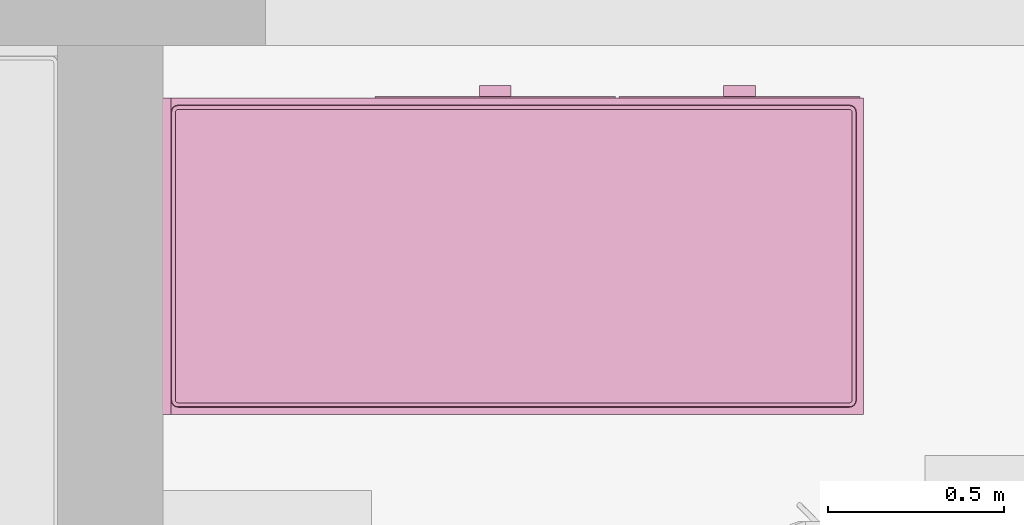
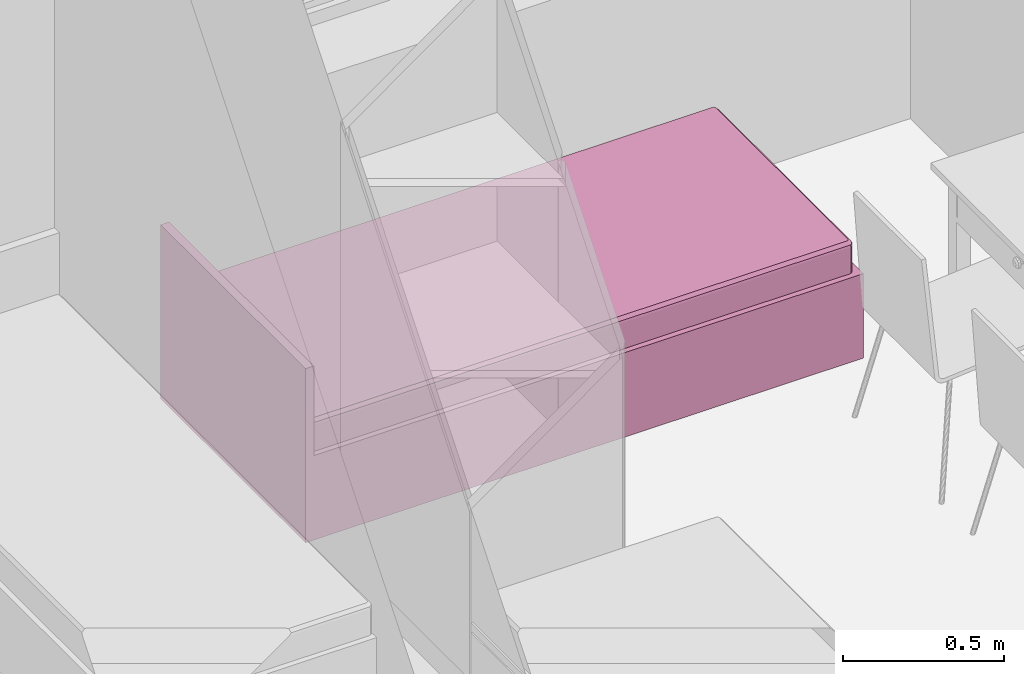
# One storey, part 73 of 165: 1 furnishing.
"""IFC2X3 building model written with IfcOpenShell, lengths in millimetres."""

from ifc_helpers import new_model, entity, si_unit, converted_unit, money_unit, direction, frame, origin_with_axes, place, context, subcontext, project, spatial, faceted_brep, source, transform, mapped, material, material_list, type_object, element, save


model = new_model("IFC2X3")

# Units and contexts
model_context = context("Model", 3, precision=1e-05, world=origin_with_axes(), true_north=direction((0.0, 1.0)))
body_context = subcontext(model_context, "Body", "Model", "MODEL_VIEW")
ifc_project = project(units=[si_unit("LENGTHUNIT", "METRE", prefix="MILLI"), si_unit("AREAUNIT", "SQUARE_METRE"), si_unit("VOLUMEUNIT", "CUBIC_METRE"), converted_unit("PLANEANGLEUNIT", "DEGREE", entity("IfcPlaneAngleMeasure", 0.0174532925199), si_unit("PLANEANGLEUNIT", "RADIAN"), dimensions=[0, 0, 0, 0, 0, 0, 0]), si_unit("SOLIDANGLEUNIT", "STERADIAN"), money_unit("USD"), converted_unit("TIMEUNIT", "Year", entity("IfcTimeMeasure", 31556926.0), si_unit("TIMEUNIT", "SECOND"), dimensions=[0, 0, 0, 0, 0, 0, 0]), si_unit("MASSUNIT", "GRAM"), si_unit("THERMODYNAMICTEMPERATUREUNIT", "DEGREE_CELSIUS"), si_unit("LUMINOUSINTENSITYUNIT", "LUMEN")], contexts=[model_context])

# Site, building, storey
site_placement = place(None, origin_with_axes())
site = spatial("IfcSite", under=ifc_project, at=site_placement, Name="Site", CompositionType="ELEMENT")
building_placement = place(site_placement, origin_with_axes())
building = spatial("IfcBuilding", under=site, at=building_placement, Name="Building", CompositionType="ELEMENT")
storey_placement = place(building_placement, frame((0.0, 0.0, 6300.0), z_axis=(0.0, 0.0, 1.0), x_axis=(1.0, 0.0, 0.0)))
storey = spatial("IfcBuildingStorey", under=building, at=storey_placement, Name="4KORRUS", CompositionType="ELEMENT", Elevation=6300.0)

# Furnishing
ifc_material = material(Name="Background")
ifc_material_list = material_list([ifc_material])
furnishing_element_type = type_object("IfcFurnishingElementType", Name="Bed 19")
shared_shape = source(origin_with_axes(), body_context, "Body", "Brep", [
    faceted_brep([(900.0, 1970.0, 0.0), (0.0, 1970.0, 0.0), (0.0, 2000.0, 0.0), (900.0, 2000.0, 0.0), (900.0, 1970.0, 660.0), (0.0, 1970.0, 660.0), (0.0, 2000.0, 660.0), (900.0, 2000.0, 660.0)], [[[0, 1, 2, 3]], [[1, 0, 4, 5]], [[2, 1, 5, 6]], [[3, 2, 6, 7]], [[0, 3, 7, 4]], [[5, 4, 7, 6]]]),
    faceted_brep([(900.0, 0.0, 0.0), (0.0, 0.0, 0.0), (0.0, 1970.0, 0.0), (900.0, 1970.0, 0.0), (900.0, 0.0, 320.0), (0.0, 0.0, 320.0), (0.0, 1970.0, 320.0), (900.0, 1970.0, 320.0)], [[[0, 1, 2, 3]], [[1, 0, 4, 5]], [[2, 1, 5, 6]], [[3, 2, 6, 7]], [[0, 3, 7, 4]], [[5, 4, 7, 6]]]),
    faceted_brep([(905.0, 10.0, 30.0), (900.0, 10.0, 30.0), (900.0, 695.0, 30.0), (905.0, 695.0, 30.0), (905.0, 10.0, 290.0), (900.0, 10.0, 290.0), (900.0, 695.0, 290.0), (905.0, 695.0, 290.0)], [[[0, 1, 2, 3]], [[1, 0, 4, 5]], [[2, 1, 5, 6]], [[3, 2, 6, 7]], [[0, 3, 7, 4]], [[5, 4, 7, 6]]]),
    faceted_brep([(935.0, 307.5, 150.0), (905.0, 307.5, 150.0), (905.0, 397.5, 150.0), (935.0, 397.5, 150.0), (935.0, 307.5, 170.0), (905.0, 307.5, 170.0), (905.0, 397.5, 170.0), (935.0, 397.5, 170.0)], [[[0, 1, 2, 3]], [[1, 0, 4, 5]], [[2, 1, 5, 6]], [[3, 2, 6, 7]], [[0, 3, 7, 4]], [[5, 4, 7, 6]]]),
    faceted_brep([(905.0, 705.0, 30.0), (900.0, 705.0, 30.0), (900.0, 1390.0, 30.0), (905.0, 1390.0, 30.0), (905.0, 705.0, 290.0), (900.0, 705.0, 290.0), (900.0, 1390.0, 290.0), (905.0, 1390.0, 290.0)], [[[0, 1, 2, 3]], [[1, 0, 4, 5]], [[2, 1, 5, 6]], [[3, 2, 6, 7]], [[0, 3, 7, 4]], [[5, 4, 7, 6]]]),
    faceted_brep([(935.0, 1002.5, 150.0), (905.0, 1002.5, 150.0), (905.0, 1092.5, 150.0), (935.0, 1092.5, 150.0), (935.0, 1002.5, 170.0), (905.0, 1002.5, 170.0), (905.0, 1092.5, 170.0), (935.0, 1092.5, 170.0)], [[[0, 1, 2, 3]], [[1, 0, 4, 5]], [[2, 1, 5, 6]], [[3, 2, 6, 7]], [[0, 3, 7, 4]], [[5, 4, 7, 6]]]),
    faceted_brep([(20.0, 40.0, 350.0), (20.0, 1950.0, 350.0), (21.522, 1957.654, 350.0), (25.858, 1964.142, 350.0), (32.346, 1968.478, 350.0), (40.0, 1970.0, 350.0), (860.0, 1970.0, 350.0), (867.654, 1968.478, 350.0), (874.142, 1964.142, 350.0), (878.478, 1957.654, 350.0), (880.0, 1950.0, 350.0), (880.0, 40.0, 350.0), (878.478, 32.346, 350.0), (874.142, 25.858, 350.0), (867.654, 21.522, 350.0), (860.0, 20.0, 350.0), (40.0, 20.0, 350.0), (32.346, 21.522, 350.0), (25.858, 25.858, 350.0), (21.522, 32.346, 350.0), (20.0, 40.0, 420.0), (20.0, 1950.0, 420.0), (21.522, 1957.654, 420.0), (25.858, 1964.142, 420.0), (32.346, 1968.478, 420.0), (40.0, 1970.0, 420.0), (860.0, 1970.0, 420.0), (867.654, 1968.478, 420.0), (874.142, 1964.142, 420.0), (878.478, 1957.654, 420.0), (880.0, 1950.0, 420.0), (880.0, 40.0, 420.0), (878.478, 32.346, 420.0), (874.142, 25.858, 420.0), (867.654, 21.522, 420.0), (860.0, 20.0, 420.0), (40.0, 20.0, 420.0), (32.346, 21.522, 420.0), (25.858, 25.858, 420.0), (21.522, 32.346, 420.0), (21.522, 40.15, 427.654), (21.522, 1949.85, 427.654), (22.956, 1957.06, 427.654), (26.955, 1963.045, 427.654), (32.94, 1967.044, 427.654), (40.15, 1968.478, 427.654), (859.85, 1968.478, 427.654), (867.06, 1967.044, 427.654), (873.045, 1963.045, 427.654), (877.044, 1957.06, 427.654), (878.478, 1949.85, 427.654), (878.478, 40.15, 427.654), (877.044, 32.94, 427.654), (873.045, 26.955, 427.654), (867.06, 22.956, 427.654), (859.85, 21.522, 427.654), (40.15, 21.522, 427.654), (32.94, 22.956, 427.654), (26.955, 26.955, 427.654), (22.956, 32.94, 427.654), (32.346, 41.216, 438.478), (32.346, 1948.784, 438.478), (33.152, 1952.836, 438.478), (34.759, 1955.241, 438.478), (37.164, 1956.848, 438.478), (41.216, 1957.654, 438.478), (858.784, 1957.654, 438.478), (862.836, 1956.848, 438.478), (865.241, 1955.241, 438.478), (866.848, 1952.836, 438.478), (867.654, 1948.784, 438.478), (867.654, 41.216, 438.478), (866.848, 37.164, 438.478), (865.241, 34.759, 438.478), (862.836, 33.152, 438.478), (858.784, 32.346, 438.478), (41.216, 32.346, 438.478), (37.164, 33.152, 438.478), (34.759, 34.759, 438.478), (33.152, 37.164, 438.478), (40.0, 41.97, 440.0), (40.0, 1948.03, 440.0), (40.327, 1949.673, 440.0), (40.0, 1950.0, 439.924), (41.97, 1950.0, 440.0), (858.03, 1950.0, 440.0), (859.673, 1949.673, 440.0), (860.0, 1950.0, 439.924), (860.0, 1948.03, 440.0), (860.0, 41.97, 440.0), (859.673, 40.327, 440.0), (860.0, 40.0, 439.924), (858.03, 40.0, 440.0), (41.97, 40.0, 440.0), (40.327, 40.327, 440.0), (40.0, 40.0, 439.924)], [[[0, 1, 2, 3, 4, 5, 6, 7, 8, 9, 10, 11, 12, 13, 14, 15, 16, 17, 18, 19]], [[1, 0, 20, 21]], [[2, 1, 21, 22]], [[3, 2, 22, 23]], [[4, 3, 23, 24]], [[5, 4, 24, 25]], [[6, 5, 25, 26]], [[7, 6, 26, 27]], [[8, 7, 27, 28]], [[9, 8, 28, 29]], [[10, 9, 29, 30]], [[11, 10, 30, 31]], [[12, 11, 31, 32]], [[13, 12, 32, 33]], [[14, 13, 33, 34]], [[15, 14, 34, 35]], [[16, 15, 35, 36]], [[17, 16, 36, 37]], [[18, 17, 37, 38]], [[19, 18, 38, 39]], [[0, 19, 39, 20]], [[21, 20, 40, 41]], [[22, 21, 41, 42]], [[23, 22, 42, 43]], [[24, 23, 43, 44]], [[25, 24, 44, 45]], [[26, 25, 45, 46]], [[27, 26, 46, 47]], [[28, 27, 47, 48]], [[29, 28, 48, 49]], [[30, 29, 49, 50]], [[31, 30, 50, 51]], [[32, 31, 51, 52]], [[33, 32, 52, 53]], [[34, 33, 53, 54]], [[35, 34, 54, 55]], [[36, 35, 55, 56]], [[37, 36, 56, 57]], [[38, 37, 57, 58]], [[39, 38, 58, 59]], [[20, 39, 59, 40]], [[41, 40, 60, 61]], [[42, 41, 61, 62]], [[43, 42, 62, 63]], [[44, 43, 63, 64]], [[45, 44, 64, 65]], [[46, 45, 65, 66]], [[47, 46, 66, 67]], [[48, 47, 67, 68]], [[49, 48, 68, 69]], [[50, 49, 69, 70]], [[51, 50, 70, 71]], [[52, 51, 71, 72]], [[53, 52, 72, 73]], [[54, 53, 73, 74]], [[55, 54, 74, 75]], [[56, 55, 75, 76]], [[57, 56, 76, 77]], [[58, 57, 77, 78]], [[59, 58, 78, 79]], [[40, 59, 79, 60]], [[61, 60, 80, 81]], [[62, 61, 81, 82, 83]], [[63, 62, 83]], [[64, 63, 83]], [[65, 64, 83, 82, 84]], [[66, 65, 84, 85]], [[67, 66, 85, 86, 87]], [[68, 67, 87]], [[69, 68, 87]], [[70, 69, 87, 86, 88]], [[71, 70, 88, 89]], [[72, 71, 89, 90, 91]], [[73, 72, 91]], [[74, 73, 91]], [[75, 74, 91, 90, 92]], [[76, 75, 92, 93]], [[77, 76, 93, 94, 95]], [[78, 77, 95]], [[79, 78, 95]], [[60, 79, 95, 94, 80]], [[81, 80, 94, 93, 92, 90, 89, 88, 86, 85, 84, 82]]]),
    faceted_brep([(20.0, 40.0, 350.0), (21.522, 32.346, 350.0), (25.858, 25.858, 350.0), (32.346, 21.522, 350.0), (40.0, 20.0, 350.0), (860.0, 20.0, 350.0), (867.654, 21.522, 350.0), (874.142, 25.858, 350.0), (878.478, 32.346, 350.0), (880.0, 40.0, 350.0), (880.0, 1950.0, 350.0), (878.478, 1957.654, 350.0), (874.142, 1964.142, 350.0), (867.654, 1968.478, 350.0), (860.0, 1970.0, 350.0), (40.0, 1970.0, 350.0), (32.346, 1968.478, 350.0), (25.858, 1964.142, 350.0), (21.522, 1957.654, 350.0), (20.0, 1950.0, 350.0), (20.0, 40.0, 320.0), (21.522, 32.346, 320.0), (25.858, 25.858, 320.0), (32.346, 21.522, 320.0), (40.0, 20.0, 320.0), (860.0, 20.0, 320.0), (867.654, 21.522, 320.0), (874.142, 25.858, 320.0), (878.478, 32.346, 320.0), (880.0, 40.0, 320.0), (880.0, 1950.0, 320.0), (878.478, 1957.654, 320.0), (874.142, 1964.142, 320.0), (867.654, 1968.478, 320.0), (860.0, 1970.0, 320.0), (40.0, 1970.0, 320.0), (32.346, 1968.478, 320.0), (25.858, 1964.142, 320.0), (21.522, 1957.654, 320.0), (20.0, 1950.0, 320.0)], [[[0, 1, 2, 3, 4, 5, 6, 7, 8, 9, 10, 11, 12, 13, 14, 15, 16, 17, 18, 19]], [[0, 20, 21, 1]], [[1, 21, 22, 2]], [[2, 22, 23, 3]], [[3, 23, 24, 4]], [[4, 24, 25, 5]], [[5, 25, 26, 6]], [[6, 26, 27, 7]], [[7, 27, 28, 8]], [[8, 28, 29, 9]], [[9, 29, 30, 10]], [[10, 30, 31, 11]], [[11, 31, 32, 12]], [[12, 32, 33, 13]], [[13, 33, 34, 14]], [[14, 34, 35, 15]], [[15, 35, 36, 16]], [[16, 36, 37, 17]], [[17, 37, 38, 18]], [[18, 38, 39, 19]], [[19, 39, 20, 0]], [[20, 39, 38, 37, 36, 35, 34, 33, 32, 31, 30, 29, 28, 27, 26, 25, 24, 23, 22, 21]]]),
])
furnishing_placement = place(storey_placement, frame((-39996.5850987, -6189.6041088, 0.0), z_axis=(0.0, 0.0, 1.0), x_axis=(0.0, 1.0, 0.0)))
element("IfcFurnishingElement", 1, at=furnishing_placement, inside=storey, type_object=furnishing_element_type, material=ifc_material_list, Name="FU - 013", context=body_context, shape_type="MappedRepresentation", body=[
    mapped(shared_shape, transform((0.0, 0.0, 0.0))),
])

save(model, "model.ifc")
